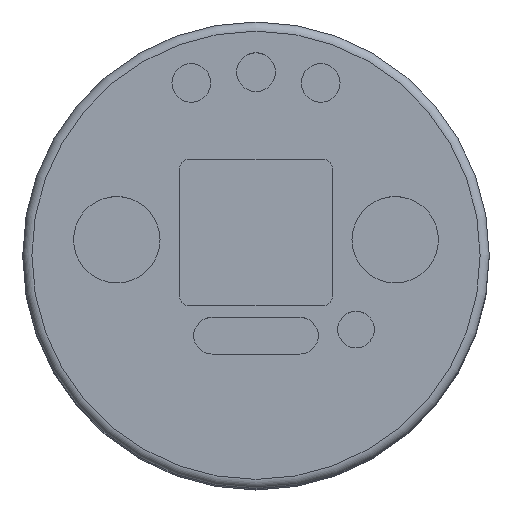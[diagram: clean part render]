
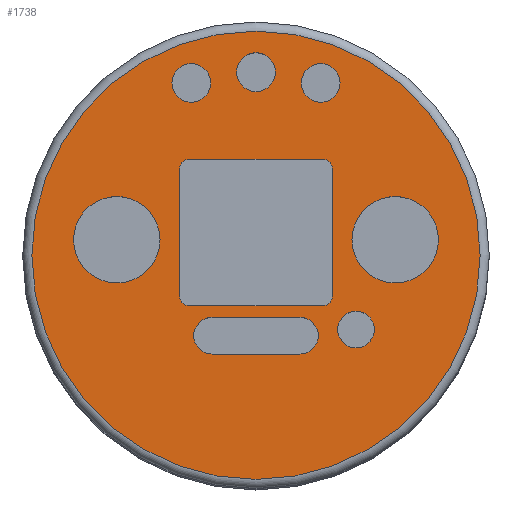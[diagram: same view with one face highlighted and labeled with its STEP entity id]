
A CAD part, top view. The second image highlights one B-rep face of the part: STEP entity #1738.
In plain terms, the highlighted planar face has unit normal (0, 0, 1).
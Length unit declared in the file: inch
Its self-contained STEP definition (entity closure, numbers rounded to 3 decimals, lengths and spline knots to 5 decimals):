
#38=FACE_BOUND('',#569,.T.);
#39=FACE_BOUND('',#570,.T.);
#40=FACE_BOUND('',#571,.T.);
#41=FACE_BOUND('',#572,.T.);
#42=FACE_BOUND('',#573,.T.);
#43=FACE_BOUND('',#574,.T.);
#44=FACE_BOUND('',#575,.T.);
#45=FACE_BOUND('',#576,.T.);
#99=PLANE('',#1932);
#214=LINE('',#5055,#343);
#219=LINE('',#5069,#348);
#223=LINE('',#5099,#352);
#224=LINE('',#5102,#353);
#225=LINE('',#5107,#354);
#226=LINE('',#5108,#355);
#343=VECTOR('',#2357,0.3937);
#348=VECTOR('',#2372,0.3937);
#352=VECTOR('',#2408,0.3937);
#353=VECTOR('',#2411,0.3937);
#354=VECTOR('',#2416,0.3937);
#355=VECTOR('',#2417,0.3937);
#458=FACE_OUTER_BOUND('',#568,.T.);
#568=EDGE_LOOP('',(#1554));
#569=EDGE_LOOP('',(#1555));
#570=EDGE_LOOP('',(#1556));
#571=EDGE_LOOP('',(#1557));
#572=EDGE_LOOP('',(#1558,#1559,#1560,#1561));
#573=EDGE_LOOP('',(#1562));
#574=EDGE_LOOP('',(#1563));
#575=EDGE_LOOP('',(#1564,#1565,#1566,#1567,#1568,#1569,#1570,#1571));
#576=EDGE_LOOP('',(#1572));
#649=CIRCLE('',#1899,0.1475);
#651=CIRCLE('',#1903,0.1475);
#654=CIRCLE('',#1908,0.03125);
#658=CIRCLE('',#1915,0.03125);
#659=CIRCLE('',#1917,0.03125);
#660=CIRCLE('',#1920,0.03125);
#666=CIRCLE('',#1930,0.76475);
#668=CIRCLE('',#1933,0.06603);
#669=CIRCLE('',#1934,0.0625);
#670=CIRCLE('',#1935,0.0625);
#671=CIRCLE('',#1936,0.0625);
#672=CIRCLE('',#1937,0.06603);
#673=CIRCLE('',#1938,0.06625);
#837=VERTEX_POINT('',#5017);
#839=VERTEX_POINT('',#5024);
#843=VERTEX_POINT('',#5034);
#844=VERTEX_POINT('',#5036);
#851=VERTEX_POINT('',#5054);
#852=VERTEX_POINT('',#5058);
#853=VERTEX_POINT('',#5062);
#854=VERTEX_POINT('',#5064);
#855=VERTEX_POINT('',#5068);
#856=VERTEX_POINT('',#5072);
#861=VERTEX_POINT('',#5089);
#862=VERTEX_POINT('',#5093);
#863=VERTEX_POINT('',#5095);
#864=VERTEX_POINT('',#5096);
#865=VERTEX_POINT('',#5098);
#866=VERTEX_POINT('',#5100);
#867=VERTEX_POINT('',#5103);
#868=VERTEX_POINT('',#5105);
#869=VERTEX_POINT('',#5109);
#1064=EDGE_CURVE('',#837,#837,#649,.T.);
#1067=EDGE_CURVE('',#839,#839,#651,.T.);
#1072=EDGE_CURVE('',#843,#844,#654,.T.);
#1081=EDGE_CURVE('',#851,#844,#214,.T.);
#1083=EDGE_CURVE('',#851,#852,#658,.T.);
#1086=EDGE_CURVE('',#853,#854,#659,.T.);
#1088=EDGE_CURVE('',#855,#854,#219,.T.);
#1090=EDGE_CURVE('',#855,#856,#660,.T.);
#1098=EDGE_CURVE('',#861,#861,#666,.T.);
#1100=EDGE_CURVE('',#862,#862,#668,.T.);
#1101=EDGE_CURVE('',#863,#864,#669,.T.);
#1102=EDGE_CURVE('',#864,#865,#223,.T.);
#1103=EDGE_CURVE('',#865,#866,#670,.T.);
#1104=EDGE_CURVE('',#866,#863,#224,.T.);
#1105=EDGE_CURVE('',#867,#867,#671,.T.);
#1106=EDGE_CURVE('',#868,#868,#672,.T.);
#1107=EDGE_CURVE('',#853,#852,#225,.T.);
#1108=EDGE_CURVE('',#843,#856,#226,.T.);
#1109=EDGE_CURVE('',#869,#869,#673,.T.);
#1554=ORIENTED_EDGE('',*,*,#1098,.F.);
#1555=ORIENTED_EDGE('',*,*,#1064,.T.);
#1556=ORIENTED_EDGE('',*,*,#1067,.T.);
#1557=ORIENTED_EDGE('',*,*,#1100,.T.);
#1558=ORIENTED_EDGE('',*,*,#1101,.T.);
#1559=ORIENTED_EDGE('',*,*,#1102,.T.);
#1560=ORIENTED_EDGE('',*,*,#1103,.T.);
#1561=ORIENTED_EDGE('',*,*,#1104,.T.);
#1562=ORIENTED_EDGE('',*,*,#1105,.T.);
#1563=ORIENTED_EDGE('',*,*,#1106,.T.);
#1564=ORIENTED_EDGE('',*,*,#1107,.T.);
#1565=ORIENTED_EDGE('',*,*,#1083,.F.);
#1566=ORIENTED_EDGE('',*,*,#1081,.T.);
#1567=ORIENTED_EDGE('',*,*,#1072,.F.);
#1568=ORIENTED_EDGE('',*,*,#1108,.T.);
#1569=ORIENTED_EDGE('',*,*,#1090,.F.);
#1570=ORIENTED_EDGE('',*,*,#1088,.T.);
#1571=ORIENTED_EDGE('',*,*,#1086,.F.);
#1572=ORIENTED_EDGE('',*,*,#1109,.T.);
#1738=ADVANCED_FACE('',(#458,#38,#39,#40,#41,#42,#43,#44,#45),#99,.T.);
#1899=AXIS2_PLACEMENT_3D('',#5018,#2319,#2320);
#1903=AXIS2_PLACEMENT_3D('',#5025,#2328,#2329);
#1908=AXIS2_PLACEMENT_3D('',#5037,#2340,#2341);
#1915=AXIS2_PLACEMENT_3D('',#5059,#2361,#2362);
#1917=AXIS2_PLACEMENT_3D('',#5065,#2367,#2368);
#1920=AXIS2_PLACEMENT_3D('',#5073,#2376,#2377);
#1930=AXIS2_PLACEMENT_3D('',#5090,#2398,#2399);
#1932=AXIS2_PLACEMENT_3D('',#5092,#2402,#2403);
#1933=AXIS2_PLACEMENT_3D('',#5094,#2404,#2405);
#1934=AXIS2_PLACEMENT_3D('',#5097,#2406,#2407);
#1935=AXIS2_PLACEMENT_3D('',#5101,#2409,#2410);
#1936=AXIS2_PLACEMENT_3D('',#5104,#2412,#2413);
#1937=AXIS2_PLACEMENT_3D('',#5106,#2414,#2415);
#1938=AXIS2_PLACEMENT_3D('',#5110,#2418,#2419);
#2319=DIRECTION('center_axis',(0.,0.,-1.));
#2320=DIRECTION('ref_axis',(-1.,0.,0.));
#2328=DIRECTION('center_axis',(0.,0.,-1.));
#2329=DIRECTION('ref_axis',(-1.,0.,0.));
#2340=DIRECTION('center_axis',(0.,0.,1.));
#2341=DIRECTION('ref_axis',(-0.707,-0.707,0.));
#2357=DIRECTION('',(-1.,0.,0.));
#2361=DIRECTION('center_axis',(0.,0.,1.));
#2362=DIRECTION('ref_axis',(0.707,-0.707,0.));
#2367=DIRECTION('center_axis',(0.,0.,1.));
#2368=DIRECTION('ref_axis',(0.707,0.707,0.));
#2372=DIRECTION('',(1.,0.,0.));
#2376=DIRECTION('center_axis',(0.,0.,1.));
#2377=DIRECTION('ref_axis',(-0.707,0.707,0.));
#2398=DIRECTION('center_axis',(0.,0.,-1.));
#2399=DIRECTION('ref_axis',(1.,0.,0.));
#2402=DIRECTION('center_axis',(0.,0.,1.));
#2403=DIRECTION('ref_axis',(1.,0.,0.));
#2404=DIRECTION('center_axis',(0.,0.,-1.));
#2405=DIRECTION('ref_axis',(1.,0.,0.));
#2406=DIRECTION('center_axis',(0.,0.,-1.));
#2407=DIRECTION('ref_axis',(0.,1.,0.));
#2408=DIRECTION('',(1.,0.,0.));
#2409=DIRECTION('center_axis',(0.,0.,-1.));
#2410=DIRECTION('ref_axis',(0.,-1.,0.));
#2411=DIRECTION('',(-1.,0.,0.));
#2412=DIRECTION('center_axis',(0.,0.,-1.));
#2413=DIRECTION('ref_axis',(1.,0.,0.));
#2414=DIRECTION('center_axis',(0.,0.,-1.));
#2415=DIRECTION('ref_axis',(1.,0.,0.));
#2416=DIRECTION('',(0.,-1.,0.));
#2417=DIRECTION('',(0.,1.,0.));
#2418=DIRECTION('center_axis',(0.,0.,-1.));
#2419=DIRECTION('ref_axis',(1.,0.,0.));
#5017=CARTESIAN_POINT('',(-0.3275,0.053,0.65));
#5018=CARTESIAN_POINT('Origin',(-0.475,0.053,0.65));
#5024=CARTESIAN_POINT('',(0.6225,0.053,0.65));
#5025=CARTESIAN_POINT('Origin',(0.475,0.053,0.65));
#5034=CARTESIAN_POINT('',(-0.26,-0.14075,0.65));
#5036=CARTESIAN_POINT('',(-0.22875,-0.172,0.65));
#5037=CARTESIAN_POINT('Origin',(-0.22875,-0.14075,0.65));
#5054=CARTESIAN_POINT('',(0.22875,-0.172,0.65));
#5055=CARTESIAN_POINT('',(-0.26,-0.172,0.65));
#5058=CARTESIAN_POINT('',(0.26,-0.14075,0.65));
#5059=CARTESIAN_POINT('Origin',(0.22875,-0.14075,0.65));
#5062=CARTESIAN_POINT('',(0.26,0.29675,0.65));
#5064=CARTESIAN_POINT('',(0.22875,0.328,0.65));
#5065=CARTESIAN_POINT('Origin',(0.22875,0.29675,0.65));
#5068=CARTESIAN_POINT('',(-0.22875,0.328,0.65));
#5069=CARTESIAN_POINT('',(0.26,0.328,0.65));
#5072=CARTESIAN_POINT('',(-0.26,0.29675,0.65));
#5073=CARTESIAN_POINT('Origin',(-0.22875,0.29675,0.65));
#5089=CARTESIAN_POINT('',(-0.76475,0.,0.65));
#5090=CARTESIAN_POINT('Origin',(0.,0.,0.65));
#5092=CARTESIAN_POINT('Origin',(0.,0.,0.65));
#5093=CARTESIAN_POINT('',(0.15479,0.58817,0.65));
#5094=CARTESIAN_POINT('Origin',(0.22082,0.58817,0.65));
#5095=CARTESIAN_POINT('',(-0.15,-0.337,0.65));
#5096=CARTESIAN_POINT('',(-0.15,-0.212,0.65));
#5097=CARTESIAN_POINT('Origin',(-0.15,-0.2745,0.65));
#5098=CARTESIAN_POINT('',(0.15,-0.212,0.65));
#5099=CARTESIAN_POINT('',(0.15,-0.212,0.65));
#5100=CARTESIAN_POINT('',(0.15,-0.337,0.65));
#5101=CARTESIAN_POINT('Origin',(0.15,-0.2745,0.65));
#5102=CARTESIAN_POINT('',(-0.15,-0.337,0.65));
#5103=CARTESIAN_POINT('',(0.27882,-0.25332,0.65));
#5104=CARTESIAN_POINT('Origin',(0.34132,-0.25332,0.65));
#5105=CARTESIAN_POINT('',(-0.28685,0.58817,0.65));
#5106=CARTESIAN_POINT('Origin',(-0.22082,0.58817,0.65));
#5107=CARTESIAN_POINT('',(0.26,-0.172,0.65));
#5108=CARTESIAN_POINT('',(-0.26,0.328,0.65));
#5109=CARTESIAN_POINT('',(-0.06625,0.62475,0.65));
#5110=CARTESIAN_POINT('Origin',(0.,0.62475,0.65));
